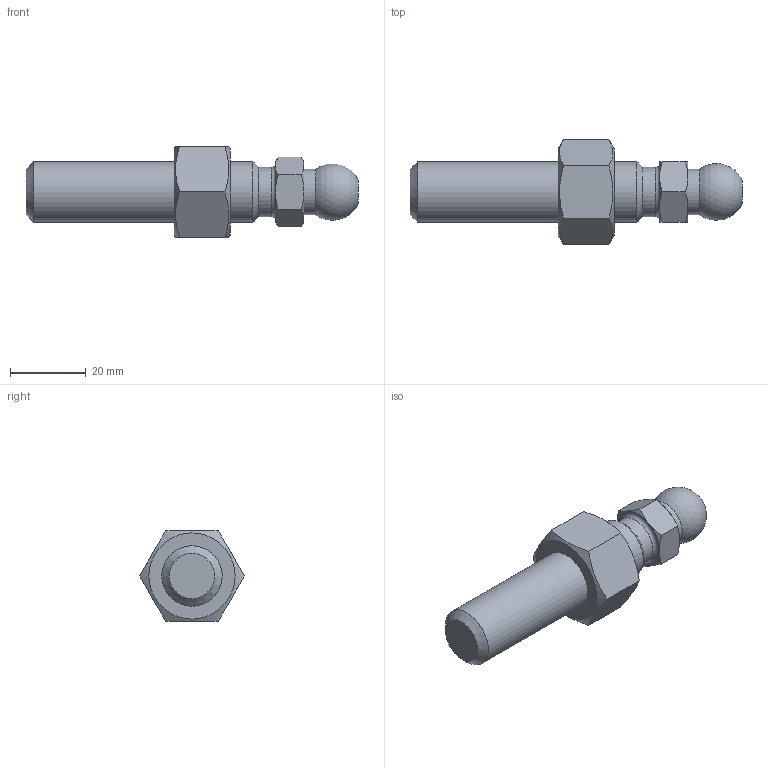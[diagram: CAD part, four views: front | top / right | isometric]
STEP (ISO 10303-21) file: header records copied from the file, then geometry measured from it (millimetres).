
FILE_DESCRIPTION(('STEP AP203'), '1');
FILE_NAME('A00020.116066', '', ('UNSPECIFIED'), ('UNSPECIFIED'), 'C3D Converter', 'C3D Toolkit', '');
FILE_SCHEMA(('CONFIG_CONTROL_DESIGN'));
Length unit declared in the file: millimetre
Products named in the file (2): A00020.116066
Assembly tree (1 placements, depth 2):
  A00020.116066
    (unnamed)
Bounding box: 87.8 x 27.71 x 24 mm (x, y, z)
Volume: 21418.5 mm3; surface area: 7113.7 mm2
Topology: 2 solids, 2 shells, 41 faces, 90 edges, 55 vertices
Faces by surface type: plane 18, cone 17, cylinder 4, sphere 1, torus 1
Full cylindrical faces by diameter (mm): 12 x1, 13 x1, 13.835 x1, 16 x1
Entity records: 2336 total; most frequent: CARTESIAN_POINT 1206, DIRECTION 160, ORIENTED_EDGE 156, EDGE_CURVE 78, AXIS2_PLACEMENT_3D 74, EDGE_LOOP 57, VERTEX_POINT 55, ADVANCED_FACE 41
